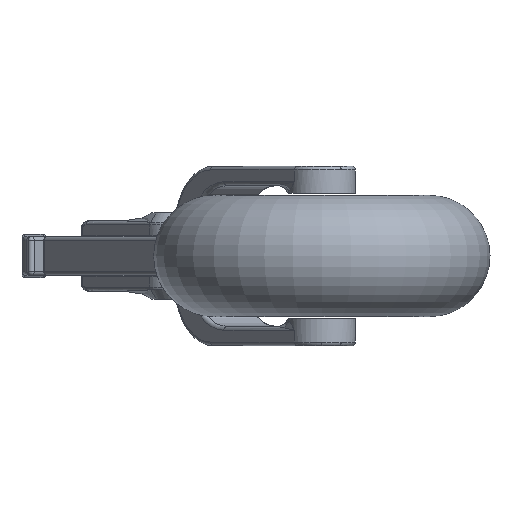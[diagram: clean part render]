
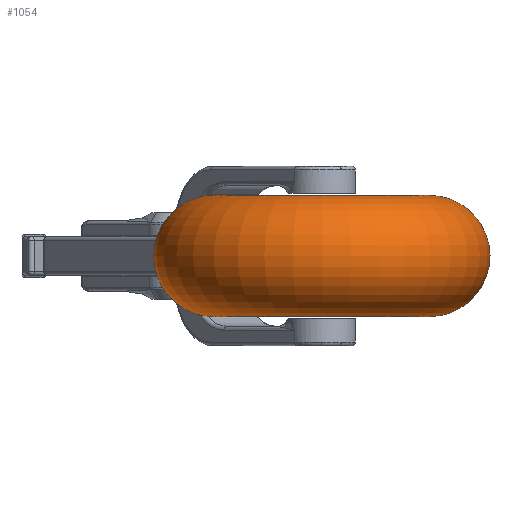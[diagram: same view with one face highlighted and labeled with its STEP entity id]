
A CAD part, front view. The second image highlights one B-rep face of the part: STEP entity #1054.
In plain terms, the highlighted toroidal (fillet/blend) face has major radius 13.75 mm and minor radius 7.75 mm.
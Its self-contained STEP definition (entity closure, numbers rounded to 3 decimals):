
#54 = AXIS2_PLACEMENT_3D ( 'NONE', #3980, #3975, #4019 ) ;
#136 = CARTESIAN_POINT ( 'NONE',  ( 26.585, -26.786, 5. ) ) ;
#220 = VERTEX_POINT ( 'NONE', #226 ) ;
#221 = VERTEX_POINT ( 'NONE', #499 ) ;
#226 = CARTESIAN_POINT ( 'NONE',  ( 26.585, -26.786, -5. ) ) ;
#244 = VERTEX_POINT ( 'NONE', #472 ) ;
#256 = VERTEX_POINT ( 'NONE', #136 ) ;
#472 = CARTESIAN_POINT ( 'NONE',  ( 10.927, -26.786, 5. ) ) ;
#499 = CARTESIAN_POINT ( 'NONE',  ( 10.927, -26.786, -5. ) ) ;
#513 = EDGE_LOOP ( 'NONE', ( #1635, #1656, #1648, #1638 ) ) ;
#1054 = ADVANCED_FACE ( 'NONE', ( #2881 ), #2867, .T. ) ;
#1635 = ORIENTED_EDGE ( 'NONE', *, *, #3126, .F. ) ;
#1638 = ORIENTED_EDGE ( 'NONE', *, *, #3155, .F. ) ;
#1648 = ORIENTED_EDGE ( 'NONE', *, *, #3146, .T. ) ;
#1656 = ORIENTED_EDGE ( 'NONE', *, *, #3141, .T. ) ;
#2867 = TOROIDAL_SURFACE ( 'NONE', #54, 13.75, 7.75 ) ;
#2881 = FACE_OUTER_BOUND ( 'NONE', #513, .T. ) ;
#3126 = EDGE_CURVE ( 'NONE', #256, #220, #6941, .T. ) ;
#3141 = EDGE_CURVE ( 'NONE', #256, #244, #6970, .T. ) ;
#3146 = EDGE_CURVE ( 'NONE', #244, #221, #6968, .T. ) ;
#3155 = EDGE_CURVE ( 'NONE', #220, #221, #6973, .T. ) ;
#3975 = DIRECTION ( 'NONE',  ( 0., 0., -1. ) ) ;
#3980 = CARTESIAN_POINT ( 'NONE',  ( 18.756, -26.786, 0. ) ) ;
#4019 = DIRECTION ( 'NONE',  ( -1., 0., 0. ) ) ;
#6451 = AXIS2_PLACEMENT_3D ( 'NONE', #7066, #7086, #7059 ) ;
#6458 = AXIS2_PLACEMENT_3D ( 'NONE', #7114, #7134, #7124 ) ;
#6463 = AXIS2_PLACEMENT_3D ( 'NONE', #7148, #7136, #7113 ) ;
#6489 = AXIS2_PLACEMENT_3D ( 'NONE', #7132, #7171, #7166 ) ;
#6941 = CIRCLE ( 'NONE', #6451, 7.75 ) ;
#6968 = CIRCLE ( 'NONE', #6463, 7.75 ) ;
#6970 = CIRCLE ( 'NONE', #6458, 7.829 ) ;
#6973 = CIRCLE ( 'NONE', #6489, 7.829 ) ;
#7059 = DIRECTION ( 'NONE',  ( -1., 0., 0. ) ) ;
#7066 = CARTESIAN_POINT ( 'NONE',  ( 32.506, -26.786, 0. ) ) ;
#7086 = DIRECTION ( 'NONE',  ( 0., 1., 0. ) ) ;
#7113 = DIRECTION ( 'NONE',  ( 0., 0., -1. ) ) ;
#7114 = CARTESIAN_POINT ( 'NONE',  ( 18.756, -26.786, 5. ) ) ;
#7124 = DIRECTION ( 'NONE',  ( -1., 0., 0. ) ) ;
#7132 = CARTESIAN_POINT ( 'NONE',  ( 18.756, -26.786, -5. ) ) ;
#7134 = DIRECTION ( 'NONE',  ( 0., 0., -1. ) ) ;
#7136 = DIRECTION ( 'NONE',  ( 0., -1., 0. ) ) ;
#7148 = CARTESIAN_POINT ( 'NONE',  ( 5.006, -26.786, 0. ) ) ;
#7166 = DIRECTION ( 'NONE',  ( -1., 0., 0. ) ) ;
#7171 = DIRECTION ( 'NONE',  ( 0., 0., -1. ) ) ;
